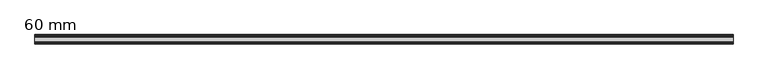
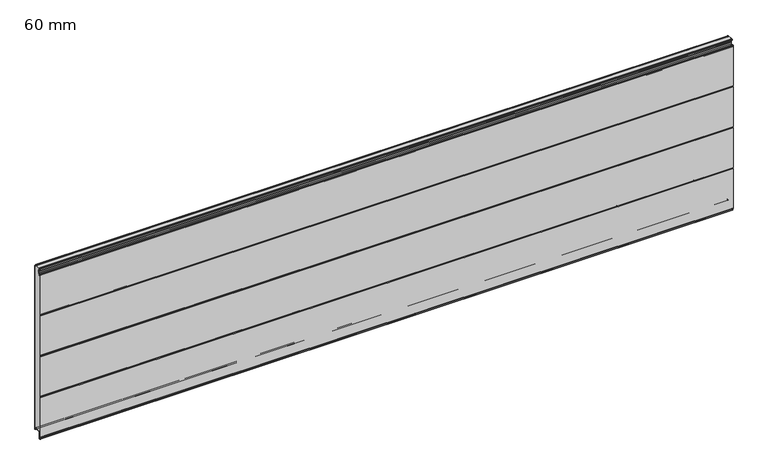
"""IFC4 building model written with IfcOpenShell, lengths in millimetres: plate geometry, HIANSA PANEL - H20.F02.003-PANELES DE FACHADA HORIZONTAL - PANEL SEMILISO - Panel de Muro Cortina : 60 mm."""

from ifc_helpers import new_model, si_unit, point, frame, frame_2d, origin, place, context, project, spatial, polyline, circle_curve, trimmed, segment, composite_curve, outline, extrude, source, transform, mapped, element, save


def plate_60_mm_8ddfc945(model_context):
    return source(origin(), model_context, "Body", "SweptSolid", [
        extrude(outline(polyline([(-43.7988607, 1122.7800953), (-43.0080812, 1123.2810465), (-13.7002601, 1123.2810465), (-12.8994274, 1122.7800953), (-43.7988607, 1122.7800953)])), frame((-2200.0, 0.0, 0.0), z_axis=(1.0, 0.0, 0.0), x_axis=(0.0, 1.0, 0.0)), (0.0, 0.0, 1.0), 4400.0),
        extrude(outline(polyline([(-43.7713844, 25.3200953), (-12.9220626, 25.3200953), (-13.7002597, 24.8210465), (-43.011032, 24.8210465), (-43.7713844, 25.3200953)])), frame((-2200.0, 0.0, 0.0), z_axis=(1.0, 0.0, 0.0), x_axis=(0.0, 1.0, 0.0)), (0.0, 0.0, 1.0), 4400.0),
        extrude(outline(composite_curve([segment(polyline([(-59.9990488, 261.2060325), (-58.4829198, 265.1645587), (-59.9990488, 269.1230849), (-59.9990488, 536.2060325), (-58.4829198, 540.1645587), (-59.9990488, 544.1230849), (-59.9990488, 811.2060325), (-58.4829198, 815.1645587), (-59.9990488, 819.1230849), (-59.9990488, 1086.1667807), (-59.3593999, 1088.7253764)]), True, "CONTINUOUS"), segment(trimmed(circle_curve(frame_2d((-57.5161291, 1088.2645587)), 1.9), [point((-59.3593999, 1088.7253764))], [point((-57.5161291, 1090.1645587))], False, "CARTESIAN"), True, "CONTINUOUS"), segment(polyline([(-57.5161291, 1090.1645587), (-55.3767084, 1090.1645587)]), True, "CONTINUOUS"), segment(trimmed(circle_curve(frame_2d((-55.3767084, 1089.1645587)), 1.0), [point((-55.3767084, 1090.1645587))], [point((-54.3767084, 1089.1645587))], False, "CARTESIAN"), True, "CONTINUOUS"), segment(polyline([(-54.3767084, 1089.1645587), (-54.3767084, 1079.2490488)]), True, "CONTINUOUS"), segment(trimmed(circle_curve(frame_2d((-53.3767084, 1079.2490488)), 1.0), [point((-54.3767084, 1079.2490488))], [point((-53.3767084, 1078.2490488))], True, "CARTESIAN"), True, "CONTINUOUS"), segment(polyline([(-53.3767084, 1078.2490488), (-49.1267084, 1078.2490488)]), True, "CONTINUOUS"), segment(trimmed(circle_curve(frame_2d((-49.1267084, 1079.2490488)), 1.0), [point((-49.1267084, 1078.2490488))], [point((-48.1267084, 1079.2490488))], True, "CARTESIAN"), True, "CONTINUOUS"), segment(polyline([(-48.1267084, 1079.2490488), (-48.1267084, 1082.1003519)]), True, "CONTINUOUS"), segment(trimmed(circle_curve(frame_2d((-46.1267084, 1082.1003519)), 2.0), [point((-48.1267084, 1082.1003519))], [point((-47.2738613, 1083.738656))], False, "CARTESIAN"), True, "CONTINUOUS"), segment(polyline([(-47.2738613, 1083.738656), (-41.2163437, 1087.9801754)]), True, "CONTINUOUS"), segment(trimmed(circle_curve(frame_2d((-42.0767084, 1089.2089035)), 1.5), [point((-41.2163437, 1087.9801754))], [point((-40.5767084, 1089.2089035))], True, "CARTESIAN"), True, "CONTINUOUS"), segment(polyline([(-40.5767084, 1089.2089035), (-40.5767084, 1098.4402031), (-39.6767084, 1099.9990488), (-40.5767084, 1101.5578945), (-40.5767084, 1110.7891941)]), True, "CONTINUOUS"), segment(trimmed(circle_curve(frame_2d((-42.0767084, 1110.7891941)), 1.5), [point((-40.5767084, 1110.7891941))], [point((-41.2163437, 1112.0179221))], True, "CARTESIAN"), True, "CONTINUOUS"), segment(polyline([(-41.2163437, 1112.0179221), (-47.2738613, 1116.2594416)]), True, "CONTINUOUS"), segment(trimmed(circle_curve(frame_2d((-46.1267084, 1117.8977457)), 2.0), [point((-47.2738613, 1116.2594416))], [point((-48.1267084, 1117.8977457))], False, "CARTESIAN"), True, "CONTINUOUS"), segment(polyline([(-48.1267084, 1117.8977457), (-48.1267084, 1121.2800953)]), True, "CONTINUOUS"), segment(trimmed(circle_curve(frame_2d((-46.1267084, 1121.2800953)), 2.0), [point((-48.1267084, 1121.2800953))], [point((-46.1267084, 1123.2800953))], False, "CARTESIAN"), True, "CONTINUOUS"), segment(polyline([(-46.1267084, 1123.2800953), (-43.0095828, 1123.2800953), (-43.7988607, 1122.7800953), (-46.1267084, 1122.7800953)]), True, "CONTINUOUS"), segment(trimmed(circle_curve(frame_2d((-46.1267084, 1121.2800953)), 1.5), [point((-46.1267084, 1122.7800953))], [point((-47.6267084, 1121.2800953))], True, "CARTESIAN"), True, "CONTINUOUS"), segment(polyline([(-47.6267084, 1121.2800953), (-47.6267084, 1117.8977457)]), True, "CONTINUOUS"), segment(trimmed(circle_curve(frame_2d((-46.1267084, 1117.8977457)), 1.5), [point((-47.6267084, 1117.8977457))], [point((-46.987073, 1116.6690176))], True, "CARTESIAN"), True, "CONTINUOUS"), segment(polyline([(-46.987073, 1116.6690176), (-40.9295555, 1112.4274982)]), True, "CONTINUOUS"), segment(trimmed(circle_curve(frame_2d((-42.0767084, 1110.7891941)), 2.0), [point((-40.9295555, 1112.4274982))], [point((-40.0767084, 1110.7891941))], False, "CARTESIAN"), True, "CONTINUOUS"), segment(polyline([(-40.0767084, 1110.7891941), (-40.0767084, 1101.6918691), (-39.3880333, 1100.4990488)]), True, "CONTINUOUS"), segment(trimmed(circle_curve(frame_2d((-40.2540587, 1099.9990488)), 1.0), [point((-39.3880333, 1100.4990488))], [point((-39.3880333, 1099.4990488))], False, "CARTESIAN"), True, "CONTINUOUS"), segment(polyline([(-39.3880333, 1099.4990488), (-40.0767084, 1098.3062285), (-40.0767084, 1089.2089035)]), True, "CONTINUOUS"), segment(trimmed(circle_curve(frame_2d((-42.0767084, 1089.2089035)), 2.0), [point((-40.0767084, 1089.2089035))], [point((-40.9295555, 1087.5705994))], False, "CARTESIAN"), True, "CONTINUOUS"), segment(polyline([(-40.9295555, 1087.5705994), (-46.987073, 1083.32908)]), True, "CONTINUOUS"), segment(trimmed(circle_curve(frame_2d((-46.1267084, 1082.1003519)), 1.5), [point((-46.987073, 1083.32908))], [point((-47.6267084, 1082.1003519))], True, "CARTESIAN"), True, "CONTINUOUS"), segment(polyline([(-47.6267084, 1082.1003519), (-47.6267084, 1079.2490488)]), True, "CONTINUOUS"), segment(trimmed(circle_curve(frame_2d((-49.1267084, 1079.2490488)), 1.5), [point((-47.6267084, 1079.2490488))], [point((-49.1267084, 1077.7490488))], False, "CARTESIAN"), True, "CONTINUOUS"), segment(polyline([(-49.1267084, 1077.7490488), (-53.3767084, 1077.7490488)]), True, "CONTINUOUS"), segment(trimmed(circle_curve(frame_2d((-53.3767084, 1079.2490488)), 1.5), [point((-53.3767084, 1077.7490488))], [point((-54.8767084, 1079.2490488))], False, "CARTESIAN"), True, "CONTINUOUS"), segment(polyline([(-54.8767084, 1079.2490488), (-54.8767084, 1089.6645587), (-57.5161291, 1089.6645587)]), True, "CONTINUOUS"), segment(trimmed(circle_curve(frame_2d((-57.5161291, 1088.2645587)), 1.4), [point((-57.5161291, 1089.6645587))], [point((-58.8743286, 1088.6041086))], True, "CARTESIAN"), True, "CONTINUOUS"), segment(polyline([(-58.8743286, 1088.6041086), (-59.4990488, 1086.1052279), (-59.4990488, 819.2053746), (-57.9514025, 815.1645587), (-59.4990488, 811.1237428), (-59.4990488, 544.2053746), (-57.9514025, 540.1645587), (-59.4990488, 536.1237428), (-59.4990488, 269.2053746), (-57.9514025, 265.1645587), (-59.4990488, 261.1237428), (-59.4990488, -5.7761105), (-58.8741312, -8.2757808)]), True, "CONTINUOUS"), segment(trimmed(circle_curve(frame_2d((-57.5169431, -7.9364838)), 1.3989577), [point((-58.8741312, -8.2757808))], [point((-57.5169431, -9.3354415))], True, "CARTESIAN"), True, "CONTINUOUS"), segment(polyline([(-57.5169431, -9.3354415), (-55.1267084, -9.3354413)]), True, "CONTINUOUS"), segment(trimmed(circle_curve(frame_2d((-55.1267084, -10.8354413)), 1.5), [point((-55.1267084, -9.3354413))], [point((-53.6267084, -10.8354413))], False, "CARTESIAN"), True, "CONTINUOUS"), segment(polyline([(-53.6267084, -10.8354413), (-53.6267084, -20.7509512), (-48.8767084, -20.7509512), (-48.8767084, 22.7800953)]), True, "CONTINUOUS"), segment(trimmed(circle_curve(frame_2d((-46.3367084, 22.7800953)), 2.54), [point((-48.8767084, 22.7800953))], [point((-46.3367084, 25.3200953))], False, "CARTESIAN"), True, "CONTINUOUS"), segment(polyline([(-46.3367084, 25.3200953), (-43.7713844, 25.3200953), (-43.0095828, 24.8200953), (-46.3367084, 24.8200953)]), True, "CONTINUOUS"), segment(trimmed(circle_curve(frame_2d((-46.3367084, 22.7800953)), 2.04), [point((-46.3367084, 24.8200953))], [point((-48.3767084, 22.7800953))], True, "CARTESIAN"), True, "CONTINUOUS"), segment(polyline([(-48.3767084, 22.7800953), (-48.3767084, -20.2509512)]), True, "CONTINUOUS"), segment(trimmed(circle_curve(frame_2d((-49.3767084, -20.2509512)), 1.0), [point((-48.3767084, -20.2509512))], [point((-49.3767084, -21.2509512))], False, "CARTESIAN"), True, "CONTINUOUS"), segment(polyline([(-49.3767084, -21.2509512), (-53.1267084, -21.2509512)]), True, "CONTINUOUS"), segment(trimmed(circle_curve(frame_2d((-53.1267084, -20.2509512)), 1.0), [point((-53.1267084, -21.2509512))], [point((-54.1267084, -20.2509512))], False, "CARTESIAN"), True, "CONTINUOUS"), segment(polyline([(-54.1267084, -20.2509512), (-54.1267084, -10.8354413)]), True, "CONTINUOUS"), segment(trimmed(circle_curve(frame_2d((-55.1267084, -10.8354413)), 1.0), [point((-54.1267084, -10.8354413))], [point((-55.1267084, -9.8354413))], True, "CARTESIAN"), True, "CONTINUOUS"), segment(polyline([(-55.1267084, -9.8354413), (-57.5161291, -9.8354413)]), True, "CONTINUOUS"), segment(trimmed(circle_curve(frame_2d((-57.5161291, -7.9354413)), 1.9), [point((-57.5161291, -9.8354413))], [point((-59.3593999, -8.396259))], False, "CARTESIAN"), True, "CONTINUOUS"), segment(polyline([(-59.3593999, -8.396259), (-59.9990488, -5.8376633), (-59.9990488, 261.2060325)]), True, "CONTINUOUS")], self_intersect=False)), frame((-2200.0, 0.0, 0.0), z_axis=(1.0, 0.0, 0.0), x_axis=(0.0, 1.0, 0.0)), (0.0, 0.0, 1.0), 4400.0),
        extrude(outline(composite_curve([segment(polyline([(-59.4927405, -5.8041988), (-59.4927405, 261.1436493), (-57.9523542, 265.16551), (-59.5000005, 269.2063259), (-59.5000005, 536.1246941), (-57.9523542, 540.16551), (-59.5000005, 544.2063259), (-59.5000005, 811.1246941), (-57.9523542, 815.16551), (-59.4927405, 819.1873707), (-59.4927405, 1086.1352189), (-58.8752803, 1088.6050599)]), True, "CONTINUOUS"), segment(trimmed(circle_curve(frame_2d((-57.5170808, 1088.26551)), 1.4), [point((-58.8752803, 1088.6050599))], [point((-57.5170808, 1089.66551))], False, "CARTESIAN"), True, "CONTINUOUS"), segment(polyline([(-57.5170808, 1089.66551), (-54.8776601, 1089.66551), (-54.8776601, 1079.2500001)]), True, "CONTINUOUS"), segment(trimmed(circle_curve(frame_2d((-53.3776601, 1079.2500001)), 1.5), [point((-54.8776601, 1079.2500001))], [point((-53.3776601, 1077.7500001))], True, "CARTESIAN"), True, "CONTINUOUS"), segment(polyline([(-53.3776601, 1077.7500001), (-49.1276601, 1077.7500001)]), True, "CONTINUOUS"), segment(trimmed(circle_curve(frame_2d((-49.1276601, 1079.2500001)), 1.5), [point((-49.1276601, 1077.7500001))], [point((-47.6276601, 1079.2500001))], True, "CARTESIAN"), True, "CONTINUOUS"), segment(polyline([(-47.6276601, 1079.2500001), (-47.6276601, 1082.1013032)]), True, "CONTINUOUS"), segment(trimmed(circle_curve(frame_2d((-46.1276601, 1082.1013032)), 1.5), [point((-47.6276601, 1082.1013032))], [point((-46.9880247, 1083.3300313))], False, "CARTESIAN"), True, "CONTINUOUS"), segment(polyline([(-46.9880247, 1083.3300313), (-40.9305072, 1087.5715507)]), True, "CONTINUOUS"), segment(trimmed(circle_curve(frame_2d((-42.0776601, 1089.2098548)), 2.0), [point((-40.9305072, 1087.5715507))], [point((-40.0776601, 1089.2098548))], True, "CARTESIAN"), True, "CONTINUOUS"), segment(polyline([(-40.0776601, 1089.2098548), (-40.0776601, 1098.3071798), (-39.3889849, 1099.5000001)]), True, "CONTINUOUS"), segment(trimmed(circle_curve(frame_2d((-40.2550103, 1100.0000001)), 1.0), [point((-39.3889849, 1099.5000001))], [point((-39.3889849, 1100.5000001))], True, "CARTESIAN"), True, "CONTINUOUS"), segment(polyline([(-39.3889849, 1100.5000001), (-40.0776601, 1101.6928204), (-40.0776601, 1110.7901454)]), True, "CONTINUOUS"), segment(trimmed(circle_curve(frame_2d((-42.0776601, 1110.7901454)), 2.0), [point((-40.0776601, 1110.7901454))], [point((-40.9305072, 1112.4284495))], True, "CARTESIAN"), True, "CONTINUOUS"), segment(polyline([(-40.9305072, 1112.4284495), (-46.9880247, 1116.6699689)]), True, "CONTINUOUS"), segment(trimmed(circle_curve(frame_2d((-46.1276601, 1117.898697)), 1.5), [point((-46.9880247, 1116.6699689))], [point((-47.6276601, 1117.898697))], False, "CARTESIAN"), True, "CONTINUOUS"), segment(polyline([(-47.6276601, 1117.898697), (-47.6276601, 1121.2810466)]), True, "CONTINUOUS"), segment(trimmed(circle_curve(frame_2d((-46.1276601, 1121.2810466)), 1.5), [point((-47.6276601, 1121.2810466))], [point((-46.1276601, 1122.7810466))], False, "CARTESIAN"), True, "CONTINUOUS"), segment(polyline([(-46.1276601, 1122.7810466), (-7.7500005, 1122.7810466)]), True, "CONTINUOUS"), segment(trimmed(circle_curve(frame_2d((-7.7500005, 1121.7810466)), 1.0), [point((-7.7500005, 1122.7810466))], [point((-6.7500005, 1121.7810466))], False, "CARTESIAN"), True, "CONTINUOUS"), segment(polyline([(-6.7500005, 1121.7810466), (-6.7500005, 1115.631732)]), True, "CONTINUOUS"), segment(trimmed(circle_curve(frame_2d((-4.7460005, 1115.631732)), 2.004), [point((-6.7500005, 1115.631732))], [point((-4.7460005, 1113.627732))], True, "CARTESIAN"), True, "CONTINUOUS"), segment(polyline([(-4.7460005, 1113.627732), (-1.5, 1113.627732)]), True, "CONTINUOUS"), segment(trimmed(circle_curve(frame_2d((-1.5, 1112.627732)), 1.0), [point((-1.5, 1113.627732))], [point((-0.5, 1112.627732))], False, "CARTESIAN"), True, "CONTINUOUS"), segment(polyline([(-0.5, 1112.627732), (-0.5, 1087.7488722), (-1.5000005, 1084.7488708), (-1.5000005, 1044.5865932), (-0.5000005, 1041.5865932), (-0.5000005, 996.7488708), (-1.5000005, 993.7488708), (-1.5000005, 953.5865932), (-0.5000005, 950.5865932), (-0.5000005, 905.7488708), (-1.5000005, 902.7488708), (-1.5000005, 862.5865932), (-0.5000005, 859.5865932), (-0.5000005, 814.7488708), (-1.5000005, 811.7488708), (-1.5000005, 771.5865932), (-0.5000005, 768.5865932), (-0.5000005, 723.7488708), (-1.5000005, 720.7488708), (-1.5000005, 680.5865932), (-0.5000005, 677.5865932), (-0.5000005, 632.7488708), (-1.5000005, 629.7488708), (-1.5000005, 589.5865932), (-0.5000005, 586.5865932), (-0.5000005, 541.7488708), (-1.5000005, 538.7488708), (-1.5000005, 498.5865932), (-0.5000005, 495.5865932), (-0.5000005, 450.7488708), (-1.5000005, 447.7488708), (-1.5000005, 407.5865932), (-0.5000005, 404.5865932), (-0.5000005, 359.7488708), (-1.5000005, 356.7488708), (-1.5000005, 316.5865932), (-0.5000005, 313.5865932), (-0.5000005, 268.7488708), (-1.5000005, 265.7488708), (-1.5000005, 225.5865932), (-0.5000005, 222.5865932), (-0.5000005, 177.7488708), (-1.5000005, 174.7488708), (-1.5000005, 134.5865932), (-0.5000005, 131.5865932), (-0.5000005, 86.7488708), (-1.5000005, 83.7488708), (-1.5000005, 43.5865932), (-0.5, 40.5865932), (-0.5, 15.6677319)]), True, "CONTINUOUS"), segment(trimmed(circle_curve(frame_2d((-1.4999997, 15.6677319)), 0.9999997), [point((-0.5, 15.6677319))], [point((-1.4999977, 14.6677322))], False, "CARTESIAN"), True, "CONTINUOUS"), segment(polyline([(-1.4999977, 14.6677322), (-4.4999978, 14.6677261)]), True, "CONTINUOUS"), segment(trimmed(circle_curve(frame_2d((-4.4999998, 15.6677321)), 1.0000061), [point((-4.4999978, 14.6677261))], [point((-5.5000059, 15.6677321))], False, "CARTESIAN"), True, "CONTINUOUS"), segment(polyline([(-5.5000059, 15.6677321), (-5.5000059, 23.2810466)]), True, "CONTINUOUS"), segment(trimmed(circle_curve(frame_2d((-7.540006, 23.2810466)), 2.0400002), [point((-5.5000059, 23.2810466))], [point((-7.540006, 25.3210467))], True, "CARTESIAN"), True, "CONTINUOUS"), segment(polyline([(-7.540006, 25.3210467), (-46.3376599, 25.3210467)]), True, "CONTINUOUS"), segment(trimmed(circle_curve(frame_2d((-46.3376599, 22.7810466)), 2.5400001), [point((-46.3376599, 25.3210467))], [point((-48.8776601, 22.7810466))], True, "CARTESIAN"), True, "CONTINUOUS"), segment(polyline([(-48.8776601, 22.7810466), (-48.8776601, -20.7499999), (-53.6276601, -20.7499999), (-53.6276601, -10.83449)]), True, "CONTINUOUS"), segment(trimmed(circle_curve(frame_2d((-55.1276601, -10.83449)), 1.5), [point((-53.6276601, -10.83449))], [point((-55.1276601, -9.33449))], True, "CARTESIAN"), True, "CONTINUOUS"), segment(polyline([(-55.1276601, -9.33449), (-57.5178947, -9.33449)]), True, "CONTINUOUS"), segment(trimmed(circle_curve(frame_2d((-57.5178947, -7.9355324)), 1.3989576), [point((-57.5178947, -9.33449))], [point((-58.8750829, -8.2748295))], False, "CARTESIAN"), True, "CONTINUOUS"), segment(polyline([(-58.8750829, -8.2748295), (-59.4927405, -5.8041988)]), True, "CONTINUOUS")], self_intersect=False)), frame((-2200.0, 0.0, 0.0), z_axis=(1.0, 0.0, 0.0), x_axis=(0.0, 1.0, 0.0)), (0.0, 0.0, 1.0), 4400.0),
        extrude(outline(composite_curve([segment(polyline([(-13.7002597, 24.8210465), (-12.9205793, 25.3210465), (-7.5400057, 25.3210465)]), True, "CONTINUOUS"), segment(trimmed(circle_curve(frame_2d((-7.5400057, 23.2810465)), 2.04), [point((-7.5400057, 25.3210465))], [point((-5.5000057, 23.2810465))], False, "CARTESIAN"), True, "CONTINUOUS"), segment(polyline([(-5.5000057, 23.2810465), (-5.5000057, 15.6677319)]), True, "CONTINUOUS"), segment(trimmed(circle_curve(frame_2d((-4.5, 15.6677319)), 1.0000057), [point((-5.5000057, 15.6677319))], [point((-4.4999981, 14.6677262))], True, "CARTESIAN"), True, "CONTINUOUS"), segment(polyline([(-4.4999981, 14.6677262), (-1.4999981, 14.6677319)]), True, "CONTINUOUS"), segment(trimmed(circle_curve(frame_2d((-1.5, 15.6677319)), 1.0), [point((-1.4999981, 14.6677319))], [point((-0.5, 15.6677319))], True, "CARTESIAN"), True, "CONTINUOUS"), segment(polyline([(-0.5, 15.6677319), (-0.5, 40.5865931), (-1.5, 43.5865931), (-1.5, 83.7488708), (-0.5, 86.7488708), (-0.5, 131.5865931), (-1.5, 134.5865931), (-1.5, 174.7488708), (-0.5, 177.7488708), (-0.5, 222.5865931), (-1.5, 225.5865931), (-1.5, 265.7488708), (-0.5, 268.7488708), (-0.5, 313.5865931), (-1.5, 316.5865931), (-1.5, 356.7488708), (-0.5, 359.7488708), (-0.5, 404.5865931), (-1.5, 407.5865931), (-1.5, 447.7488708), (-0.5, 450.7488708), (-0.5, 495.5865931), (-1.5, 498.5865931), (-1.5, 538.7488708), (-0.5, 541.7488708), (-0.5, 586.5865931), (-1.5, 589.5865931), (-1.5, 629.7488708), (-0.5, 632.7488708), (-0.5, 677.5865931), (-1.5, 680.5865931), (-1.5, 720.7488708), (-0.5, 723.7488708), (-0.5, 768.5865931), (-1.5, 771.5865931), (-1.5, 811.7488708), (-0.5, 814.7488708), (-0.5, 859.5865931), (-1.5, 862.5865931), (-1.5, 902.7488708), (-0.5, 905.7488708), (-0.5, 950.5865931), (-1.5, 953.5865931), (-1.5, 993.7488708), (-0.5, 996.7488708), (-0.5, 1041.5865931), (-1.5, 1044.5865931), (-1.5, 1084.7488708), (-0.5, 1087.7488708), (-0.5, 1112.6277319)]), True, "CONTINUOUS"), segment(trimmed(circle_curve(frame_2d((-1.5, 1112.6277319)), 1.0), [point((-0.5, 1112.6277319))], [point((-1.5, 1113.6277319))], True, "CARTESIAN"), True, "CONTINUOUS"), segment(polyline([(-1.5, 1113.6277319), (-4.746, 1113.6277319)]), True, "CONTINUOUS"), segment(trimmed(circle_curve(frame_2d((-4.746, 1115.6317319)), 2.004), [point((-4.746, 1113.6277319))], [point((-6.75, 1115.6317319))], False, "CARTESIAN"), True, "CONTINUOUS"), segment(polyline([(-6.75, 1115.6317319), (-6.75, 1121.7810465)]), True, "CONTINUOUS"), segment(trimmed(circle_curve(frame_2d((-7.75, 1121.7810465)), 1.0), [point((-6.75, 1121.7810465))], [point((-7.75, 1122.7810465))], True, "CARTESIAN"), True, "CONTINUOUS"), segment(polyline([(-7.75, 1122.7810465), (-12.9009477, 1122.7810465), (-13.7002597, 1123.2810465), (-7.7500057, 1123.2810465)]), True, "CONTINUOUS"), segment(trimmed(circle_curve(frame_2d((-7.7500057, 1121.7810465)), 1.5), [point((-7.7500057, 1123.2810465))], [point((-6.2500057, 1121.7810465))], False, "CARTESIAN"), True, "CONTINUOUS"), segment(polyline([(-6.2500057, 1121.7810465), (-6.2500057, 1115.631727)]), True, "CONTINUOUS"), segment(trimmed(circle_curve(frame_2d((-4.7460057, 1115.631727)), 1.504), [point((-6.2500057, 1115.631727))], [point((-4.7460034, 1114.127727))], True, "CARTESIAN"), True, "CONTINUOUS"), segment(polyline([(-4.7460034, 1114.127727), (-1.5000023, 1114.1277319)]), True, "CONTINUOUS"), segment(trimmed(circle_curve(frame_2d((-1.5, 1112.6277319)), 1.5), [point((-1.5000023, 1114.1277319))], [point((0.0, 1112.6277319))], False, "CARTESIAN"), True, "CONTINUOUS"), segment(polyline([(0.0, 1112.6277319), (0.0, 1087.6677319), (-1.0, 1084.6677319), (-1.0, 1044.6677319), (0.0, 1041.6677319), (0.0, 996.6677319), (-1.0, 993.6677319), (-1.0, 953.6677319), (0.0, 950.6677319), (0.0, 905.6677319), (-1.0, 902.6677319), (-1.0, 862.6677319), (0.0, 859.6677319), (0.0, 814.6677319), (-1.0, 811.6677319), (-1.0, 771.6677319), (0.0, 768.6677319), (0.0, 723.6677319), (-1.0, 720.6677319), (-1.0, 680.6677319), (0.0, 677.6677319), (0.0, 632.6677319), (-1.0, 629.6677319), (-1.0, 589.6677319), (0.0, 586.6677319), (0.0, 541.6677319), (-1.0, 538.6677319), (-1.0, 498.6677319), (0.0, 495.6677319), (0.0, 450.6677319), (-1.0, 447.6677319), (-1.0, 407.6677319), (0.0, 404.6677319), (0.0, 359.6677319), (-1.0, 356.6677319), (-1.0, 316.6677319), (0.0, 313.6677319), (0.0, 268.6677319), (-1.0, 265.6677319), (-1.0, 225.6677319), (0.0, 222.6677319), (0.0, 177.6677319), (-1.0, 174.6677319), (-1.0, 134.6677319), (0.0, 131.6677319), (0.0, 86.6677319), (-1.0, 83.6677319), (-1.0, 43.6677319), (0.0, 40.6677319), (0.0, 15.6677319)]), True, "CONTINUOUS"), segment(trimmed(circle_curve(frame_2d((-1.5, 15.6677319)), 1.5), [point((0.0, 15.6677319))], [point((-1.5, 14.1677319))], False, "CARTESIAN"), True, "CONTINUOUS"), segment(polyline([(-1.5, 14.1677319), (-4.5, 14.1677319)]), True, "CONTINUOUS"), segment(trimmed(circle_curve(frame_2d((-4.5, 15.6677319)), 1.5), [point((-4.5, 14.1677319))], [point((-6.0, 15.6677319))], False, "CARTESIAN"), True, "CONTINUOUS"), segment(polyline([(-6.0, 15.6677319), (-6.0, 23.2810465)]), True, "CONTINUOUS"), segment(trimmed(circle_curve(frame_2d((-7.54, 23.2810465)), 1.54), [point((-6.0, 23.2810465))], [point((-7.54, 24.8210465))], True, "CARTESIAN"), True, "CONTINUOUS"), segment(polyline([(-7.54, 24.8210465), (-13.7002597, 24.8210465)]), True, "CONTINUOUS")], self_intersect=False)), frame((-2200.0, 0.0, 0.0), z_axis=(1.0, 0.0, 0.0), x_axis=(0.0, 1.0, 0.0)), (0.0, 0.0, 1.0), 4400.0),
    ])


if __name__ == "__main__":
    model = new_model("IFC4")
    model_context = context("Model", 3, world=origin())
    ifc_project = project(units=[si_unit("LENGTHUNIT", "METRE", prefix="MILLI")], contexts=[model_context])
    site = spatial("IfcSite", under=ifc_project)
    building = spatial("IfcBuilding", under=site)
    placement = place(None, origin())
    plate_60_mm_shape = plate_60_mm_8ddfc945(model_context)
    element("IfcPlate", 1, ObjectType="HIANSA PANEL - H20.F02.003-PANELES DE FACHADA HORIZONTAL - PANEL SEMILISO - Panel de Muro Cortina : 60 mm", at=placement, inside=building, context=model_context, shape_type="MappedRepresentation", body=[
        mapped(plate_60_mm_shape, transform((0.0, 0.0, 0.0), x_axis=(1.0, 0.0, 0.0), y_axis=(0.0, 1.0, 0.0), z_axis=(0.0, 0.0, 1.0))),
    ])
    save(model, "model.ifc")
